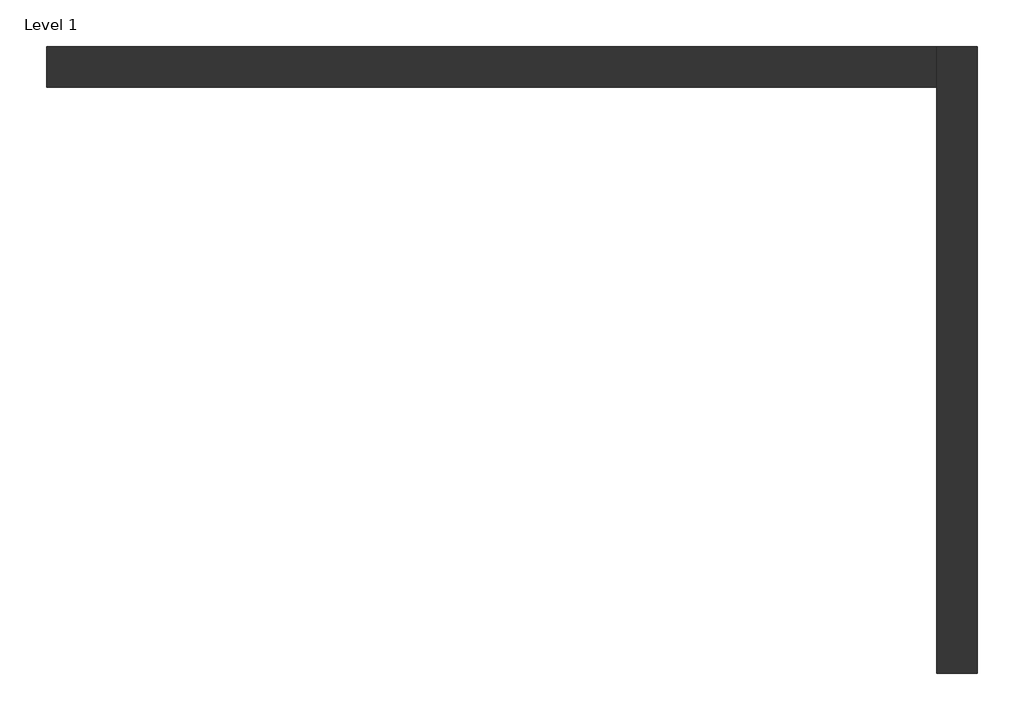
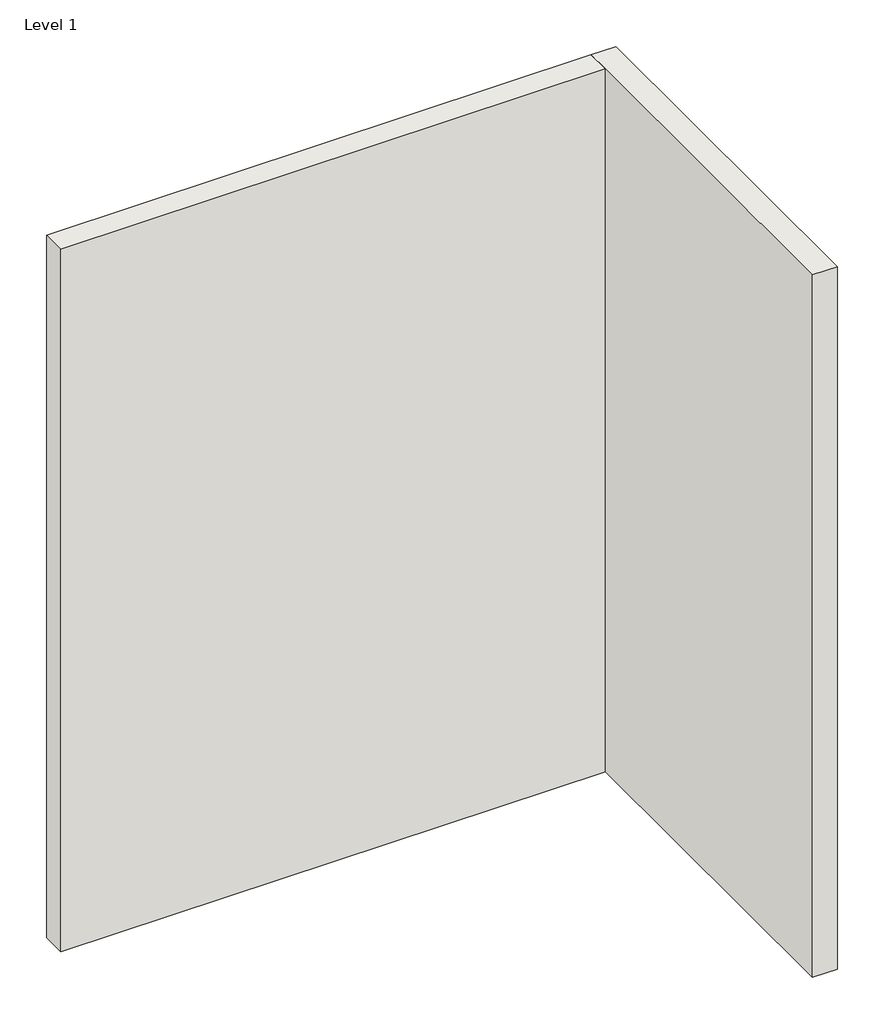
# One storey: 2 walls.
"""IFC4 building model written with IfcOpenShell, lengths in millimetres."""

from ifc_helpers import new_model, si_unit, origin, origin_with_axes, place, context, project, spatial, polyline, outline, extrude, faceted_brep, element, save

model = new_model("IFC4")

# Units and contexts
model_context = context("Model", 3, world=origin())
ifc_project = project(units=[si_unit("LENGTHUNIT", "METRE", prefix="MILLI")], contexts=[model_context])

# Site, building, storey
site = spatial("IfcSite", under=ifc_project)
building = spatial("IfcBuilding", under=site)
storey = spatial("IfcBuildingStorey", under=building, Name="Level 1", Elevation=0.0)

# Walls
placement = place(None, origin())
element("IfcWall", 1, ObjectType="Generic - 8\"", at=placement, inside=storey, context=model_context, shape_type="Brep", body=[
    faceted_brep([(5979.1122456, -2584.357364, 0.0), (5979.1122456, 565.242636, 0.0), (5979.1122456, 565.242636, 6096.0), (5979.1122456, -2584.357364, 6096.0), (5775.9122456, -2584.357364, 0.0), (5775.9122456, -2584.357364, 6096.0), (5775.9122456, 362.042636, 6096.0), (5775.9122456, 565.242636, 6096.0), (5775.9122456, 565.242636, 0.0), (5775.9122456, 362.042636, 0.0)], [[[0, 1, 2, 3]], [[4, 5, 6, 7, 8, 9]], [[1, 0, 4, 9, 8]], [[3, 2, 7, 6, 5]], [[0, 3, 5, 4]], [[2, 1, 8, 7]]]),
])
element("IfcWall", 2, ObjectType="Generic - 8\"", at=placement, inside=storey, context=model_context, shape_type="SweptSolid", body=[
    extrude(outline(polyline([(1305.5122456, 565.242636), (5775.9122456, 565.242636), (5775.9122456, 362.042636), (1305.5122456, 362.042636), (1305.5122456, 565.242636)])), origin_with_axes(), (0.0, 0.0, 1.0), 6096.0),
])

save(model, "model.ifc")
